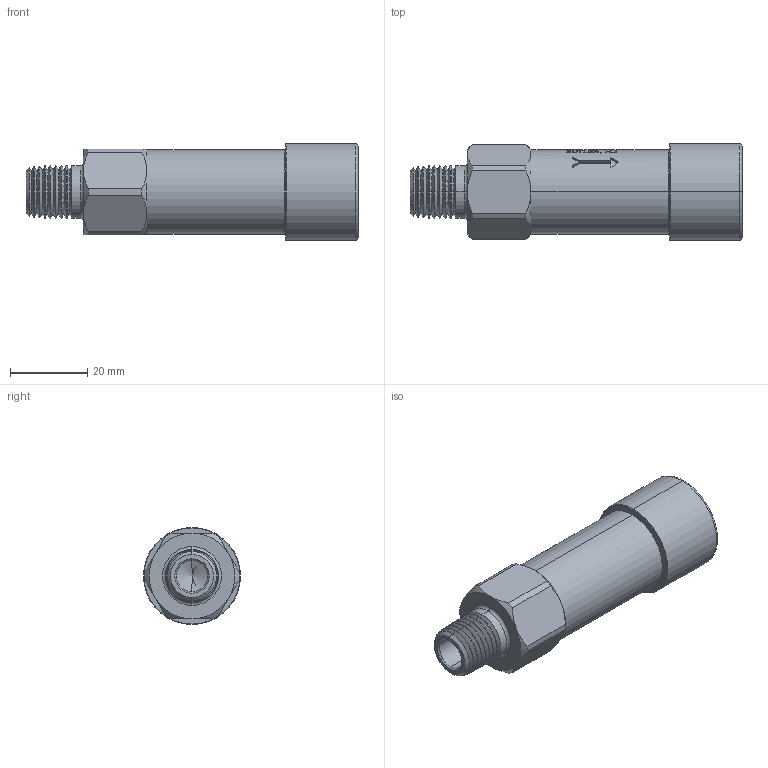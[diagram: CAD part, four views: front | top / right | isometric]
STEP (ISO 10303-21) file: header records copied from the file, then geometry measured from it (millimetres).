
FILE_DESCRIPTION (( 'STEP AP203' ), '1' );
FILE_NAME ('IRV8-4.STEP', '2020-08-13T14:17:24', ( '' ), ( '' ), 'SwSTEP 2.0', 'SolidWorks 2020', '' );
FILE_SCHEMA (( 'CONFIG_CONTROL_DESIGN' ));
Length unit declared in the file: inch
Products named in the file (2): IRV8-4; Part2^IRV8-4
Assembly tree (1 placements, depth 2):
  IRV8-4
    Part2^IRV8-4
Bounding box: 86.03 x 25.15 x 25.15 mm (x, y, z)
Volume: 27106.2 mm3; surface area: 8613.6 mm2
Topology: 1 solids, 2 shells, 348 faces, 862 edges, 542 vertices
Faces by surface type: plane 143, cone 84, bspline 70, cylinder 47, torus 4
Entity records: 15067 total; most frequent: CARTESIAN_POINT 7155, ORIENTED_EDGE 1716, DIRECTION 1414, EDGE_CURVE 858, VERTEX_POINT 542, AXIS2_PLACEMENT_3D 536, EDGE_LOOP 378, ADVANCED_FACE 348
